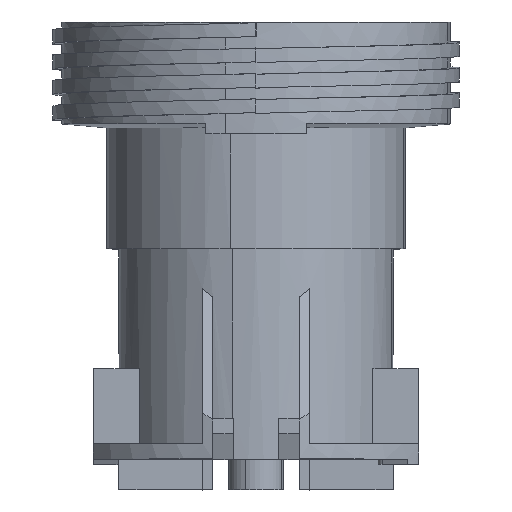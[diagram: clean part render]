
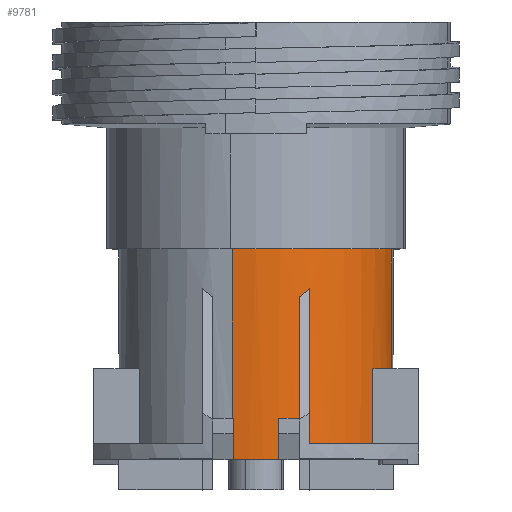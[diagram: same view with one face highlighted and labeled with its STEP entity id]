
A CAD part, top view. The second image highlights one B-rep face of the part: STEP entity #9781.
In plain terms, the highlighted cylindrical face has radius 13.5 mm (diameter 27 mm), a partial arc.
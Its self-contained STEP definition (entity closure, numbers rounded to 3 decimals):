
#4446= CARTESIAN_POINT(' ',(-2.344,7.3,13.295));
#4447= VERTEX_POINT(' ',#4446);
#4461= CARTESIAN_POINT(' ',(0.,7.3,0.));
#4466= DIRECTION(' ',(0.,1.,0.));
#4471= DIRECTION(' ',(-0.174,0.,0.985));
#4476= AXIS2_PLACEMENT_3D(' ',#4461,#4466,#4471);
#4481= CIRCLE(' ',#4476,13.5);
#4486= CARTESIAN_POINT(' ',(13.295,7.3,2.344));
#4487= VERTEX_POINT(' ',#4486);
#4491= EDGE_CURVE(' ',#4447,#4487,#4481,.T.);
#9166= CARTESIAN_POINT(' ',(-2.344,-9.4,13.295));
#9167= VERTEX_POINT(' ',#9166);
#9181= CARTESIAN_POINT(' ',(-2.344,-9.4,13.295));
#9186= DIRECTION(' ',(0.,1.,0.));
#9191= VECTOR(' ',#9186,1.);
#9196= LINE(' ',#9181,#9191);
#9201= EDGE_CURVE(' ',#9167,#4447,#9196,.T.);
#9261= CARTESIAN_POINT(' ',(0.,7.3,0.));
#9266= DIRECTION(' ',(0.,-1.,0.));
#9271= DIRECTION(' ',(0.985,0.,0.174));
#9276= AXIS2_PLACEMENT_3D(' ',#9261,#9266,#9271);
#9281= CYLINDRICAL_SURFACE(' ',#9276,13.5);
#9286= ORIENTED_EDGE(' ',*,*,#4491,.F.);
#9291= ORIENTED_EDGE(' ',*,*,#9201,.F.);
#9296= CARTESIAN_POINT(' ',(-2.344,-9.4,13.295));
#9301= DIRECTION(' ',(0.985,0.,0.17));
#9306= VECTOR(' ',#9301,1.);
#9311= LINE(' ',#9296,#9306);
#9316= CARTESIAN_POINT(' ',(-2.25,-9.4,13.311));
#9317= VERTEX_POINT(' ',#9316);
#9321= EDGE_CURVE(' ',#9167,#9317,#9311,.T.);
#9326= ORIENTED_EDGE(' ',*,*,#9321,.T.);
#9331= CARTESIAN_POINT(' ',(-2.25,-9.4,13.311));
#9336= DIRECTION(' ',(0.,-1.,0.));
#9341= VECTOR(' ',#9336,1.);
#9346= LINE(' ',#9331,#9341);
#9351= CARTESIAN_POINT(' ',(-2.25,-13.4,13.311));
#9352= VERTEX_POINT(' ',#9351);
#9356= EDGE_CURVE(' ',#9317,#9352,#9346,.T.);
#9361= ORIENTED_EDGE(' ',*,*,#9356,.T.);
#9366= CARTESIAN_POINT(' ',(0.,-13.4,0.));
#9371= DIRECTION(' ',(0.,1.,0.));
#9376= DIRECTION(' ',(-0.167,0.,0.986));
#9381= AXIS2_PLACEMENT_3D(' ',#9366,#9371,#9376);
#9386= CIRCLE(' ',#9381,13.5);
#9391= CARTESIAN_POINT(' ',(2.25,-13.4,13.311));
#9392= VERTEX_POINT(' ',#9391);
#9396= EDGE_CURVE(' ',#9352,#9392,#9386,.T.);
#9401= ORIENTED_EDGE(' ',*,*,#9396,.T.);
#9406= CARTESIAN_POINT(' ',(2.25,-13.4,13.311));
#9411= DIRECTION(' ',(0.,1.,0.));
#9416= VECTOR(' ',#9411,1.);
#9421= LINE(' ',#9406,#9416);
#9426= CARTESIAN_POINT(' ',(2.25,-9.4,13.311));
#9427= VERTEX_POINT(' ',#9426);
#9431= EDGE_CURVE(' ',#9392,#9427,#9421,.T.);
#9436= ORIENTED_EDGE(' ',*,*,#9431,.T.);
#9441= CARTESIAN_POINT(' ',(0.,-9.4,-0.001));
#9446= DIRECTION(' ',(0.,1.,0.));
#9451= DIRECTION(' ',(0.167,0.,0.986));
#9456= AXIS2_PLACEMENT_3D(' ',#9441,#9446,#9451);
#9461= CIRCLE(' ',#9456,13.501);
#9466= CARTESIAN_POINT(' ',(4.25,-9.4,12.814));
#9467= VERTEX_POINT(' ',#9466);
#9471= EDGE_CURVE(' ',#9427,#9467,#9461,.T.);
#9476= ORIENTED_EDGE(' ',*,*,#9471,.T.);
#9481= CARTESIAN_POINT(' ',(4.25,-9.4,12.814));
#9486= DIRECTION(' ',(0.,1.,0.));
#9491= VECTOR(' ',#9486,1.);
#9496= LINE(' ',#9481,#9491);
#9501= CARTESIAN_POINT(' ',(4.25,2.549,12.814));
#9502= VERTEX_POINT(' ',#9501);
#9506= EDGE_CURVE(' ',#9467,#9502,#9496,.T.);
#9511= ORIENTED_EDGE(' ',*,*,#9506,.T.);
#9516= CARTESIAN_POINT(' ',(5.25,3.355,12.437));
#9521= CARTESIAN_POINT(' ',(4.921,3.058,12.576));
#9526= CARTESIAN_POINT(' ',(4.588,2.789,12.702));
#9531= CARTESIAN_POINT(' ',(4.25,2.549,12.814));
#9536= B_SPLINE_CURVE_WITH_KNOTS(' ',3,(#9516,#9521,#9526,#9531),.UNSPECIFIED.,.F.,.U.,(4,4),(0.,1.),.UNSPECIFIED.);
#9541= CARTESIAN_POINT(' ',(5.25,3.355,12.437));
#9542= VERTEX_POINT(' ',#9541);
#9546= EDGE_CURVE(' ',#9542,#9502,#9536,.T.);
#9551= ORIENTED_EDGE(' ',*,*,#9546,.F.);
#9556= CARTESIAN_POINT(' ',(5.25,3.355,12.437));
#9561= DIRECTION(' ',(0.,-1.,0.));
#9566= VECTOR(' ',#9561,1.);
#9571= LINE(' ',#9556,#9566);
#9576= CARTESIAN_POINT(' ',(5.25,-11.9,12.437));
#9577= VERTEX_POINT(' ',#9576);
#9581= EDGE_CURVE(' ',#9542,#9577,#9571,.T.);
#9586= ORIENTED_EDGE(' ',*,*,#9581,.T.);
#9591= CARTESIAN_POINT(' ',(0.,-11.9,0.));
#9596= DIRECTION(' ',(0.,1.,0.));
#9601= DIRECTION(' ',(0.389,0.,0.921));
#9606= AXIS2_PLACEMENT_3D(' ',#9591,#9596,#9601);
#9611= CIRCLE(' ',#9606,13.5);
#9616= CARTESIAN_POINT(' ',(11.5,-11.9,7.071));
#9617= VERTEX_POINT(' ',#9616);
#9621= EDGE_CURVE(' ',#9577,#9617,#9611,.T.);
#9626= ORIENTED_EDGE(' ',*,*,#9621,.T.);
#9631= CARTESIAN_POINT(' ',(11.5,-11.9,7.071));
#9636= DIRECTION(' ',(0.,1.,0.));
#9641= VECTOR(' ',#9636,1.);
#9646= LINE(' ',#9631,#9641);
#9651= CARTESIAN_POINT(' ',(11.5,-4.5,7.071));
#9652= VERTEX_POINT(' ',#9651);
#9656= EDGE_CURVE(' ',#9617,#9652,#9646,.T.);
#9661= ORIENTED_EDGE(' ',*,*,#9656,.T.);
#9666= CARTESIAN_POINT(' ',(0.,-4.5,0.));
#9671= DIRECTION(' ',(0.,1.,0.));
#9676= DIRECTION(' ',(0.852,0.,0.524));
#9681= AXIS2_PLACEMENT_3D(' ',#9666,#9671,#9676);
#9686= CIRCLE(' ',#9681,13.5);
#9691= CARTESIAN_POINT(' ',(13.266,-4.5,2.5));
#9692= VERTEX_POINT(' ',#9691);
#9696= EDGE_CURVE(' ',#9652,#9692,#9686,.T.);
#9701= ORIENTED_EDGE(' ',*,*,#9696,.T.);
#9706= CARTESIAN_POINT(' ',(13.295,-4.5,2.344));
#9711= DIRECTION(' ',(-0.179,0.,0.984));
#9716= VECTOR(' ',#9711,1.);
#9721= LINE(' ',#9706,#9716);
#9726= CARTESIAN_POINT(' ',(13.295,-4.5,2.344));
#9727= VERTEX_POINT(' ',#9726);
#9731= EDGE_CURVE(' ',#9727,#9692,#9721,.T.);
#9736= ORIENTED_EDGE(' ',*,*,#9731,.F.);
#9741= CARTESIAN_POINT(' ',(13.295,-4.5,2.344));
#9746= DIRECTION(' ',(0.,1.,0.));
#9751= VECTOR(' ',#9746,1.);
#9756= LINE(' ',#9741,#9751);
#9761= EDGE_CURVE(' ',#9727,#4487,#9756,.T.);
#9766= ORIENTED_EDGE(' ',*,*,#9761,.T.);
#9771= EDGE_LOOP(' ',(#9286,#9291,#9326,#9361,#9401,#9436,#9476,#9511,#9551,#9586,#9626,#9661,#9701,#9736,#9766));
#9776= FACE_OUTER_BOUND(' ',#9771,.T.);
#9781= ADVANCED_FACE(' ',(#9776),#9281,.T.);
